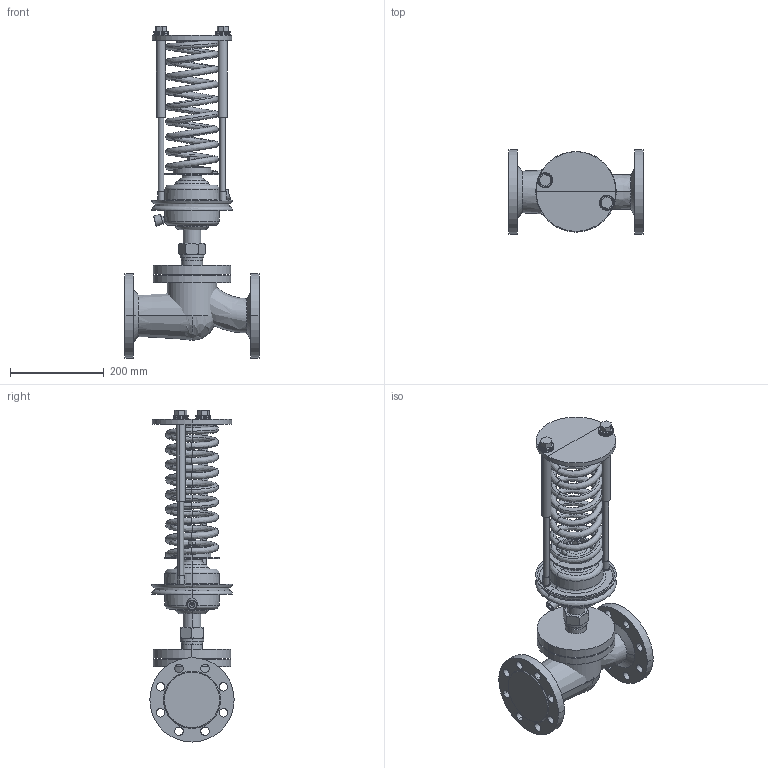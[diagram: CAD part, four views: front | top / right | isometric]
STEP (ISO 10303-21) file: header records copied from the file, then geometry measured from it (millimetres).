
FILE_DESCRIPTION(/* description */ (''),/* implementation_level */ '2;1');
FILE_NAME(/* name */ 'ETM_Регулятор давления_УРРД_НЗ_РД_DN65 0.05—0.3 МПа',/* time_stamp */ '2026-04-24T18:52:55+03:00',/* author */ (''),/* organization */ (''),/* preprocessor_version */ 'ST-DEVELOPER v20',/* originating_system */ '',/* authorisation */ '');
FILE_SCHEMA (('AP242_MANAGED_MODEL_BASED_3D_ENGINEERING_MIM_LF { 1 0 10303 442 1 1 4 }'));
Length unit declared in the file: millimetre
Products named in the file (13): TopLevelAssembly; Выдавливание; Переход; Выдавливание_
1; Переход_1; Переход_2; Переход_3; Объемная геометрия 
присоединена; Выдавливание_
2; Выдавливание_
3; Объемная геометрия 
присоединена_1; Выдавливание_
4; Пружина красная
Assembly tree (12 placements, depth 2):
  TopLevelAssembly
    Выдавливание
    Переход
    Выдавливание_
1
    Переход_1
    Переход_2
    Переход_3
    Объемная геометрия 
присоединена
    Выдавливание_
2
    Выдавливание_
3
    Объемная геометрия 
присоединена_1
    Выдавливание_
4
    Пружина красная
Bounding box: 290 x 180 x 708.35 mm (x, y, z)
Volume: 6333324.5 mm3; surface area: 879366.6 mm2
Topology: 31 solids, 31 shells, 522 faces, 1053 edges, 573 vertices
Faces by surface type: plane 181, bspline 177, cylinder 154, cone 10
Entity records: 16718 total; most frequent: CARTESIAN_POINT 5373, DIRECTION 2393, ORIENTED_EDGE 2102, EDGE_CURVE 1051, AXIS2_PLACEMENT_3D 1006, CIRCLE 635, VERTEX_POINT 573, EDGE_LOOP 560
